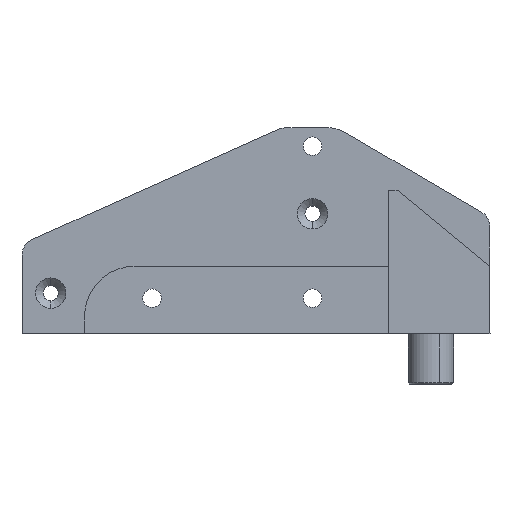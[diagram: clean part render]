
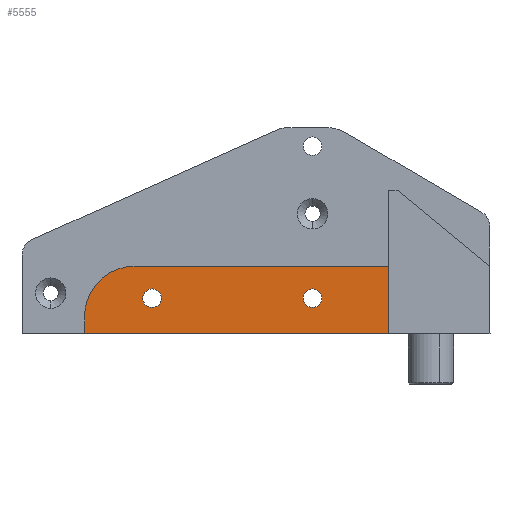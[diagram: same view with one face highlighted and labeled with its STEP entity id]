
A CAD part, front view. The second image highlights one B-rep face of the part: STEP entity #5555.
In plain terms, the highlighted planar face has unit normal (0, -1, 0).
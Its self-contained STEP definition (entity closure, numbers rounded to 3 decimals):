
#23 = CARTESIAN_POINT ( 'NONE',  ( 0., 0., -40. ) ) ;
#50 = VERTEX_POINT ( 'NONE', #4350 ) ;
#242 = ORIENTED_EDGE ( 'NONE', *, *, #3128, .T. ) ;
#247 = LINE ( 'NONE', #4078, #1115 ) ;
#305 = CARTESIAN_POINT ( 'NONE',  ( 200., 0., -21. ) ) ;
#321 = EDGE_CURVE ( 'NONE', #4390, #4562, #247, .T. ) ;
#363 = VERTEX_POINT ( 'NONE', #1553 ) ;
#446 = LINE ( 'NONE', #5618, #1869 ) ;
#553 = ORIENTED_EDGE ( 'NONE', *, *, #5451, .T. ) ;
#680 = VECTOR ( 'NONE', #1762, 1000. ) ;
#741 = CARTESIAN_POINT ( 'NONE',  ( 210., 0., -10. ) ) ;
#781 = VECTOR ( 'NONE', #2309, 1000. ) ;
#811 = DIRECTION ( 'NONE',  ( 0., 1., 0. ) ) ;
#856 = DIRECTION ( 'NONE',  ( 0., 0., 1. ) ) ;
#909 = CIRCLE ( 'NONE', #4265, 30. ) ;
#920 = FACE_BOUND ( 'NONE', #1731, .T. ) ;
#997 = EDGE_LOOP ( 'NONE', ( #1213, #4780 ) ) ;
#1016 = VERTEX_POINT ( 'NONE', #4962 ) ;
#1115 = VECTOR ( 'NONE', #5466, 1000. ) ;
#1186 = AXIS2_PLACEMENT_3D ( 'NONE', #3063, #2610, #4413 ) ;
#1213 = ORIENTED_EDGE ( 'NONE', *, *, #5622, .T. ) ;
#1246 = VERTEX_POINT ( 'NONE', #3735 ) ;
#1264 = DIRECTION ( 'NONE',  ( 0., 0., -1. ) ) ;
#1426 = DIRECTION ( 'NONE',  ( 0., 0., 1. ) ) ;
#1553 = CARTESIAN_POINT ( 'NONE',  ( 105., 0., -15.5 ) ) ;
#1615 = ORIENTED_EDGE ( 'NONE', *, *, #5339, .T. ) ;
#1731 = EDGE_LOOP ( 'NONE', ( #3984, #4875 ) ) ;
#1740 = CARTESIAN_POINT ( 'NONE',  ( 20., 0., -21. ) ) ;
#1752 = DIRECTION ( 'NONE',  ( 0., 0., 1. ) ) ;
#1762 = DIRECTION ( 'NONE',  ( -1., 0., 0. ) ) ;
#1774 = CIRCLE ( 'NONE', #5328, 5.5 ) ;
#1869 = VECTOR ( 'NONE', #1752, 1000. ) ;
#2043 = DIRECTION ( 'NONE',  ( 0., 1., 0. ) ) ;
#2183 = EDGE_CURVE ( 'NONE', #2986, #50, #446, .T. ) ;
#2186 = FACE_BOUND ( 'NONE', #997, .T. ) ;
#2309 = DIRECTION ( 'NONE',  ( 1., 0., 0. ) ) ;
#2316 = ORIENTED_EDGE ( 'NONE', *, *, #2183, .F. ) ;
#2495 = DIRECTION ( 'NONE',  ( 0., 0., 1. ) ) ;
#2610 = DIRECTION ( 'NONE',  ( 0., -1., 0. ) ) ;
#2621 = CARTESIAN_POINT ( 'NONE',  ( 20., 0., -26.5 ) ) ;
#2626 = CARTESIAN_POINT ( 'NONE',  ( 105., 0., -21. ) ) ;
#2634 = CARTESIAN_POINT ( 'NONE',  ( 210., 0., -40. ) ) ;
#2758 = VERTEX_POINT ( 'NONE', #3517 ) ;
#2773 = AXIS2_PLACEMENT_3D ( 'NONE', #3768, #5076, #856 ) ;
#2814 = EDGE_CURVE ( 'NONE', #5576, #2986, #3910, .T. ) ;
#2842 = CIRCLE ( 'NONE', #3661, 5.5 ) ;
#2879 = CARTESIAN_POINT ( 'NONE',  ( 240., 0., -10. ) ) ;
#2911 = CARTESIAN_POINT ( 'NONE',  ( 0., 0., -40. ) ) ;
#2986 = VERTEX_POINT ( 'NONE', #2911 ) ;
#3016 = EDGE_CURVE ( 'NONE', #1016, #3092, #2842, .T. ) ;
#3063 = CARTESIAN_POINT ( 'NONE',  ( 0., 0., 0. ) ) ;
#3092 = VERTEX_POINT ( 'NONE', #5244 ) ;
#3128 = EDGE_CURVE ( 'NONE', #363, #2758, #1774, .T. ) ;
#3163 = LINE ( 'NONE', #4918, #781 ) ;
#3248 = CIRCLE ( 'NONE', #5556, 5.5 ) ;
#3348 = CARTESIAN_POINT ( 'NONE',  ( 105., 0., -21. ) ) ;
#3435 = AXIS2_PLACEMENT_3D ( 'NONE', #3575, #5336, #1426 ) ;
#3451 = VERTEX_POINT ( 'NONE', #2621 ) ;
#3452 = DIRECTION ( 'NONE',  ( 0., 0., 1. ) ) ;
#3493 = FACE_OUTER_BOUND ( 'NONE', #5227, .T. ) ;
#3517 = CARTESIAN_POINT ( 'NONE',  ( 105., 0., -26.5 ) ) ;
#3575 = CARTESIAN_POINT ( 'NONE',  ( 20., 0., -21. ) ) ;
#3608 = EDGE_CURVE ( 'NONE', #50, #4390, #3163, .T. ) ;
#3661 = AXIS2_PLACEMENT_3D ( 'NONE', #305, #2043, #3764 ) ;
#3735 = CARTESIAN_POINT ( 'NONE',  ( 20., 0., -15.5 ) ) ;
#3764 = DIRECTION ( 'NONE',  ( 0., 0., 1. ) ) ;
#3768 = CARTESIAN_POINT ( 'NONE',  ( 200., 0., -21. ) ) ;
#3796 = ORIENTED_EDGE ( 'NONE', *, *, #2814, .F. ) ;
#3863 = CIRCLE ( 'NONE', #2773, 5.5 ) ;
#3910 = LINE ( 'NONE', #23, #680 ) ;
#3911 = CARTESIAN_POINT ( 'NONE',  ( 240., 0., 0. ) ) ;
#3982 = CIRCLE ( 'NONE', #3435, 5.5 ) ;
#3984 = ORIENTED_EDGE ( 'NONE', *, *, #4254, .T. ) ;
#4078 = CARTESIAN_POINT ( 'NONE',  ( 240., 0., 0. ) ) ;
#4254 = EDGE_CURVE ( 'NONE', #3092, #1016, #3863, .T. ) ;
#4265 = AXIS2_PLACEMENT_3D ( 'NONE', #741, #5163, #1264 ) ;
#4350 = CARTESIAN_POINT ( 'NONE',  ( 0., 0., 0. ) ) ;
#4374 = DIRECTION ( 'NONE',  ( 0., 1., 0. ) ) ;
#4390 = VERTEX_POINT ( 'NONE', #3911 ) ;
#4413 = DIRECTION ( 'NONE',  ( 0., 0., -1. ) ) ;
#4465 = FACE_BOUND ( 'NONE', #4596, .T. ) ;
#4562 = VERTEX_POINT ( 'NONE', #2879 ) ;
#4596 = EDGE_LOOP ( 'NONE', ( #242, #1615 ) ) ;
#4735 = DIRECTION ( 'NONE',  ( 0., 0., 1. ) ) ;
#4761 = ORIENTED_EDGE ( 'NONE', *, *, #321, .F. ) ;
#4780 = ORIENTED_EDGE ( 'NONE', *, *, #5088, .T. ) ;
#4875 = ORIENTED_EDGE ( 'NONE', *, *, #3016, .T. ) ;
#4918 = CARTESIAN_POINT ( 'NONE',  ( 0., 0., 0. ) ) ;
#4962 = CARTESIAN_POINT ( 'NONE',  ( 200., 0., -26.5 ) ) ;
#5076 = DIRECTION ( 'NONE',  ( 0., 1., 0. ) ) ;
#5088 = EDGE_CURVE ( 'NONE', #3451, #1246, #5455, .T. ) ;
#5105 = DIRECTION ( 'NONE',  ( 0., 1., 0. ) ) ;
#5163 = DIRECTION ( 'NONE',  ( 0., -1., 0. ) ) ;
#5227 = EDGE_LOOP ( 'NONE', ( #3796, #553, #4761, #5544, #2316 ) ) ;
#5244 = CARTESIAN_POINT ( 'NONE',  ( 200., 0., -15.5 ) ) ;
#5256 = PLANE ( 'NONE',  #1186 ) ;
#5281 = AXIS2_PLACEMENT_3D ( 'NONE', #1740, #811, #4735 ) ;
#5328 = AXIS2_PLACEMENT_3D ( 'NONE', #2626, #4374, #3452 ) ;
#5336 = DIRECTION ( 'NONE',  ( 0., 1., 0. ) ) ;
#5339 = EDGE_CURVE ( 'NONE', #2758, #363, #3248, .T. ) ;
#5451 = EDGE_CURVE ( 'NONE', #5576, #4562, #909, .T. ) ;
#5455 = CIRCLE ( 'NONE', #5281, 5.5 ) ;
#5466 = DIRECTION ( 'NONE',  ( 0., 0., -1. ) ) ;
#5544 = ORIENTED_EDGE ( 'NONE', *, *, #3608, .F. ) ;
#5555 = ADVANCED_FACE ( 'NONE', ( #920, #4465, #2186, #3493 ), #5256, .T. ) ;
#5556 = AXIS2_PLACEMENT_3D ( 'NONE', #3348, #5105, #2495 ) ;
#5576 = VERTEX_POINT ( 'NONE', #2634 ) ;
#5618 = CARTESIAN_POINT ( 'NONE',  ( 0., 0., 0. ) ) ;
#5622 = EDGE_CURVE ( 'NONE', #1246, #3451, #3982, .T. ) ;
